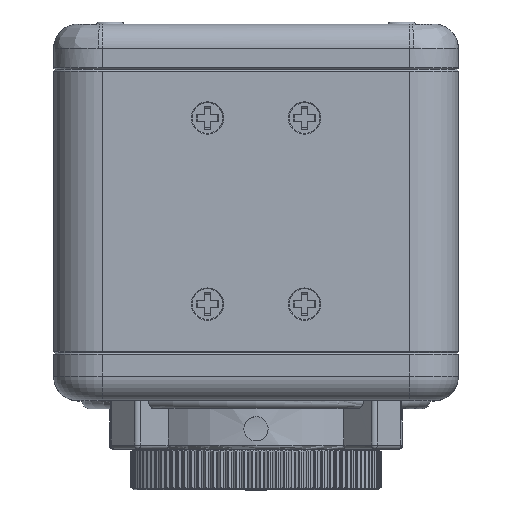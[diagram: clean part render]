
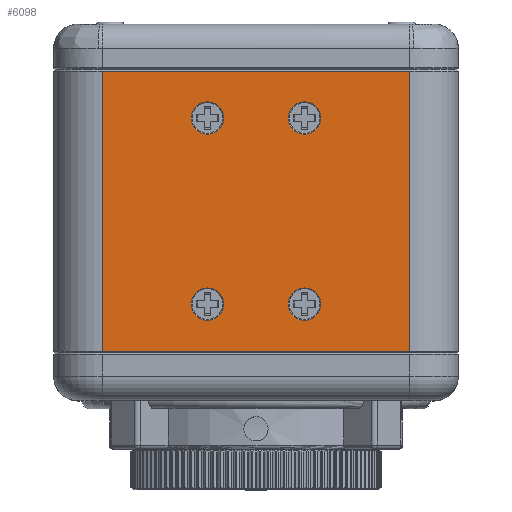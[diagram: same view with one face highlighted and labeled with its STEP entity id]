
A CAD part, top view. The second image highlights one B-rep face of the part: STEP entity #6098.
In plain terms, the highlighted planar face has unit normal (0, 0, 1).
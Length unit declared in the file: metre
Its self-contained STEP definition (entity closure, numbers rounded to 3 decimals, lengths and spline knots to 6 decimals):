
#6098=ADVANCED_FACE('666:2994',(#15222,#15223,#15224,#15225,#15226),#15227,.T.);
#6826=EDGE_CURVE('666:10758',#16333,#16333,#16334,.T.);
#7468=EDGE_CURVE('666:10764',#17200,#17108,#17208,.T.);
#7474=EDGE_CURVE('666:10770',#17116,#15823,#17214,.T.);
#7514=EDGE_CURVE('666:10773',#17271,#17271,#17272,.T.);
#7518=EDGE_CURVE('666:10755',#17277,#17277,#17278,.T.);
#7522=EDGE_CURVE('666:10752',#17283,#17283,#17284,.T.);
#11598=EDGE_CURVE('666:10761',#17108,#17116,#22637,.T.);
#11600=EDGE_CURVE('666:10767',#15823,#17200,#22639,.T.);
#15222=FACE_OUTER_BOUND('',#34972,.T.);
#15223=FACE_BOUND('',#34973,.T.);
#15224=FACE_BOUND('',#34974,.T.);
#15225=FACE_BOUND('',#34975,.T.);
#15226=FACE_BOUND('',#34976,.T.);
#15227=PLANE('',#34977);
#15823=VERTEX_POINT('',#35790);
#16333=VERTEX_POINT('',#36772);
#16334=CIRCLE('',#36773,0.002);
#17108=VERTEX_POINT('',#38683);
#17116=VERTEX_POINT('',#38695);
#17200=VERTEX_POINT('',#38823);
#17208=LINE('',#38836,#38837);
#17214=LINE('',#38848,#38849);
#17271=VERTEX_POINT('',#38930);
#17272=CIRCLE('',#38931,0.002);
#17277=VERTEX_POINT('',#38938);
#17278=CIRCLE('',#38939,0.002);
#17283=VERTEX_POINT('',#38946);
#17284=CIRCLE('',#38947,0.002);
#22637=LINE('',#48071,#48072);
#22639=LINE('',#48075,#48076);
#34972=EDGE_LOOP('',(#57818,#57819,#57820,#57821));
#34973=EDGE_LOOP('',(#57822));
#34974=EDGE_LOOP('',(#57823));
#34975=EDGE_LOOP('',(#57824));
#34976=EDGE_LOOP('',(#57825));
#34977=AXIS2_PLACEMENT_3D('',#57826,#57827,#57828);
#35790=CARTESIAN_POINT('',(0.019,-0.014804,0.056204));
#36772=CARTESIAN_POINT('',(0.004,-0.009004,0.056204));
#36773=AXIS2_PLACEMENT_3D('',#58847,#58848,#58849);
#38683=CARTESIAN_POINT('',(-0.019,0.019796,0.056204));
#38695=CARTESIAN_POINT('',(0.019,0.019796,0.056204));
#38823=CARTESIAN_POINT('',(-0.019,-0.014804,0.056204));
#38836=CARTESIAN_POINT('',(-0.019,0.025596,0.056204));
#38837=VECTOR('',#59316,1.0);
#38848=CARTESIAN_POINT('',(0.019,0.025596,0.056204));
#38849=VECTOR('',#59319,1.0);
#38930=CARTESIAN_POINT('',(-0.008,-0.009004,0.056204));
#38931=AXIS2_PLACEMENT_3D('',#59369,#59370,#59371);
#38938=CARTESIAN_POINT('',(0.004,0.013996,0.056204));
#38939=AXIS2_PLACEMENT_3D('',#59375,#59376,#59377);
#38946=CARTESIAN_POINT('',(-0.008,0.013996,0.056204));
#38947=AXIS2_PLACEMENT_3D('',#59381,#59382,#59383);
#48071=CARTESIAN_POINT('',(0.,0.019796,0.056204));
#48072=VECTOR('',#62190,1.0);
#48075=CARTESIAN_POINT('',(0.,-0.014804,0.056204));
#48076=VECTOR('',#62191,1.0);
#57818=ORIENTED_EDGE('',*,*,#11598,.F.);
#57819=ORIENTED_EDGE('',*,*,#7468,.F.);
#57820=ORIENTED_EDGE('',*,*,#11600,.F.);
#57821=ORIENTED_EDGE('',*,*,#7474,.F.);
#57822=ORIENTED_EDGE('',*,*,#7518,.F.);
#57823=ORIENTED_EDGE('',*,*,#6826,.F.);
#57824=ORIENTED_EDGE('',*,*,#7514,.F.);
#57825=ORIENTED_EDGE('',*,*,#7522,.F.);
#57826=CARTESIAN_POINT('',(0.0,0.025596,0.056204));
#57827=DIRECTION('',(0.0,0.,1.0));
#57828=DIRECTION('',(0.0,-1.0,0.));
#58847=CARTESIAN_POINT('',(0.006,-0.009004,0.056204));
#58848=DIRECTION('',(0.0,0.,1.0));
#58849=DIRECTION('',(-1.0,0.0,0.0));
#59316=DIRECTION('',(0.0,1.0,0.));
#59319=DIRECTION('',(0.0,-1.0,0.));
#59369=CARTESIAN_POINT('',(-0.006,-0.009004,0.056204));
#59370=DIRECTION('',(0.0,0.,1.0));
#59371=DIRECTION('',(-1.0,0.0,0.0));
#59375=CARTESIAN_POINT('',(0.006,0.013996,0.056204));
#59376=DIRECTION('',(0.0,0.,1.0));
#59377=DIRECTION('',(-1.0,0.0,0.0));
#59381=CARTESIAN_POINT('',(-0.006,0.013996,0.056204));
#59382=DIRECTION('',(0.0,0.,1.0));
#59383=DIRECTION('',(-1.0,0.0,0.0));
#62190=DIRECTION('',(1.0,0.,0.));
#62191=DIRECTION('',(-1.0,0.,0.));
